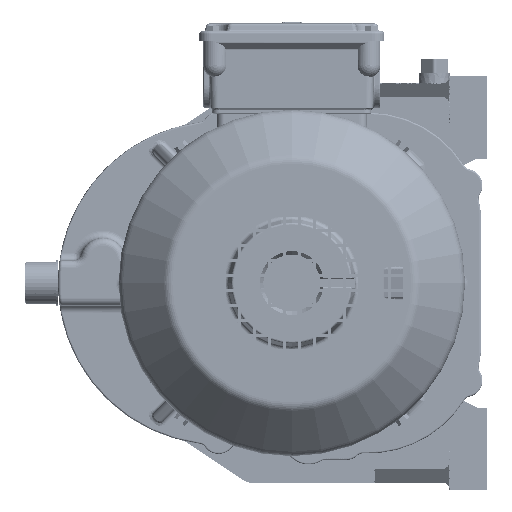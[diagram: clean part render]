
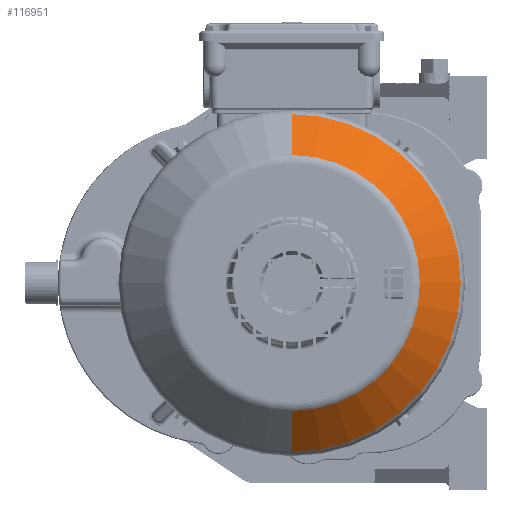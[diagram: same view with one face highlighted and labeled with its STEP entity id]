
A CAD part, left-side view. The second image highlights one B-rep face of the part: STEP entity #116951.
In plain terms, the highlighted conical face has half-angle 45 degrees and reference radius 115.5 mm.
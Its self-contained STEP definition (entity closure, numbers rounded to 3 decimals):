
#10416 = CARTESIAN_POINT ( 'NONE',  ( -328.657, -41.911, 85.343 ) ) ;
#22656 = EDGE_LOOP ( 'NONE', ( #47079, #270246, #416829, #277917 ) ) ;
#47079 = ORIENTED_EDGE ( 'NONE', *, *, #75426, .F. ) ;
#50039 = CARTESIAN_POINT ( 'NONE',  ( -298.5, -41.911, -115.5 ) ) ;
#75426 = EDGE_CURVE ( 'NONE', #388024, #206113, #402170, .T. ) ;
#82181 = CARTESIAN_POINT ( 'NONE',  ( -298.5, -41.911, 0. ) ) ;
#104931 = DIRECTION ( 'NONE',  ( 0., 0., 1. ) ) ;
#107631 = AXIS2_PLACEMENT_3D ( 'NONE', #158345, #433793, #124362 ) ;
#115484 = DIRECTION ( 'NONE',  ( 0.707, 0., -0.707 ) ) ;
#116951 = ADVANCED_FACE ( 'NONE', ( #287782 ), #225937, .T. ) ;
#124362 = DIRECTION ( 'NONE',  ( 0., 0., 1. ) ) ;
#125483 = CARTESIAN_POINT ( 'NONE',  ( -301.429, -41.911, 112.571 ) ) ;
#138373 = VECTOR ( 'NONE', #189951, 1000. ) ;
#140794 = AXIS2_PLACEMENT_3D ( 'NONE', #418930, #353411, #104931 ) ;
#158345 = CARTESIAN_POINT ( 'NONE',  ( -301.429, -41.911, 0. ) ) ;
#161837 = CARTESIAN_POINT ( 'NONE',  ( -328.657, -41.911, -85.343 ) ) ;
#189951 = DIRECTION ( 'NONE',  ( 0.707, 0., 0.707 ) ) ;
#197183 = VERTEX_POINT ( 'NONE', #328212 ) ;
#205530 = CIRCLE ( 'NONE', #140794, 85.343 ) ;
#206113 = VERTEX_POINT ( 'NONE', #125483 ) ;
#211743 = EDGE_CURVE ( 'NONE', #217407, #197183, #221683, .T. ) ;
#217407 = VERTEX_POINT ( 'NONE', #161837 ) ;
#221683 = LINE ( 'NONE', #50039, #419908 ) ;
#225937 = CONICAL_SURFACE ( 'NONE', #283698, 115.5, 0.785 ) ;
#226526 = EDGE_CURVE ( 'NONE', #388024, #217407, #205530, .T. ) ;
#270246 = ORIENTED_EDGE ( 'NONE', *, *, #226526, .T. ) ;
#277917 = ORIENTED_EDGE ( 'NONE', *, *, #343071, .T. ) ;
#283698 = AXIS2_PLACEMENT_3D ( 'NONE', #82181, #328382, #326164 ) ;
#287782 = FACE_OUTER_BOUND ( 'NONE', #22656, .T. ) ;
#326164 = DIRECTION ( 'NONE',  ( 0., 0., -1. ) ) ;
#328212 = CARTESIAN_POINT ( 'NONE',  ( -301.429, -41.911, -112.571 ) ) ;
#328382 = DIRECTION ( 'NONE',  ( 1., 0., 0. ) ) ;
#343071 = EDGE_CURVE ( 'NONE', #197183, #206113, #410429, .T. ) ;
#353411 = DIRECTION ( 'NONE',  ( 1., 0., 0. ) ) ;
#388024 = VERTEX_POINT ( 'NONE', #10416 ) ;
#395529 = CARTESIAN_POINT ( 'NONE',  ( -298.5, -41.911, 115.5 ) ) ;
#402170 = LINE ( 'NONE', #395529, #138373 ) ;
#410429 = CIRCLE ( 'NONE', #107631, 112.571 ) ;
#416829 = ORIENTED_EDGE ( 'NONE', *, *, #211743, .T. ) ;
#418930 = CARTESIAN_POINT ( 'NONE',  ( -328.657, -41.911, 0. ) ) ;
#419908 = VECTOR ( 'NONE', #115484, 1000. ) ;
#433793 = DIRECTION ( 'NONE',  ( -1., 0., 0. ) ) ;
